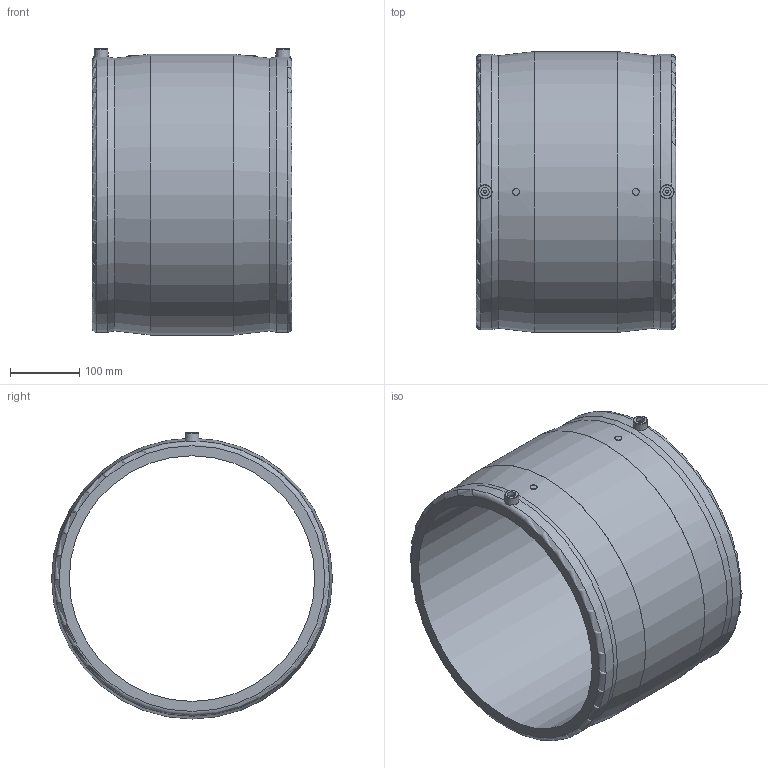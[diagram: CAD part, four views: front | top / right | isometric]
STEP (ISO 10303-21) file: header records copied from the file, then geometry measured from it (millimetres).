
FILE_DESCRIPTION(/* description */ ('Unknown'),/* implementation_level */ '2;1');
FILE_NAME(/* name */ 'MP355B',/* time_stamp */ '2021-05-06T14:26:29+02:00',/* author */ ('Unknown'),/* organization */ ('Unknown'),/* preprocessor_version */ 'ST-DEVELOPER v16.7',/* originating_system */ 'Solid Edge',/* authorisation */ 'Unknown');
FILE_SCHEMA (('AUTOMOTIVE_DESIGN {1 0 10303 214 3 1 1}'));
Length unit declared in the file: millimetre
Products named in the file (1): MP355B
Bounding box: 289 x 406 x 413.5 mm (x, y, z)
Volume: 8047969.8 mm3; surface area: 734901 mm2
Topology: 1 solids, 1 shells, 32 faces, 72 edges, 46 vertices
Faces by surface type: cylinder 10, plane 10, torus 6, cone 6
Full cylindrical faces by diameter (mm): 4 x2, 10 x2, 12 x2, 355 x1, 406 x1
Entity records: 762 total; most frequent: CARTESIAN_POINT 175, DIRECTION 122, ORIENTED_EDGE 76, AXIS2_PLACEMENT_3D 61, EDGE_LOOP 60, FACE_BOUND 60, EDGE_CURVE 38, VERTEX_POINT 34
